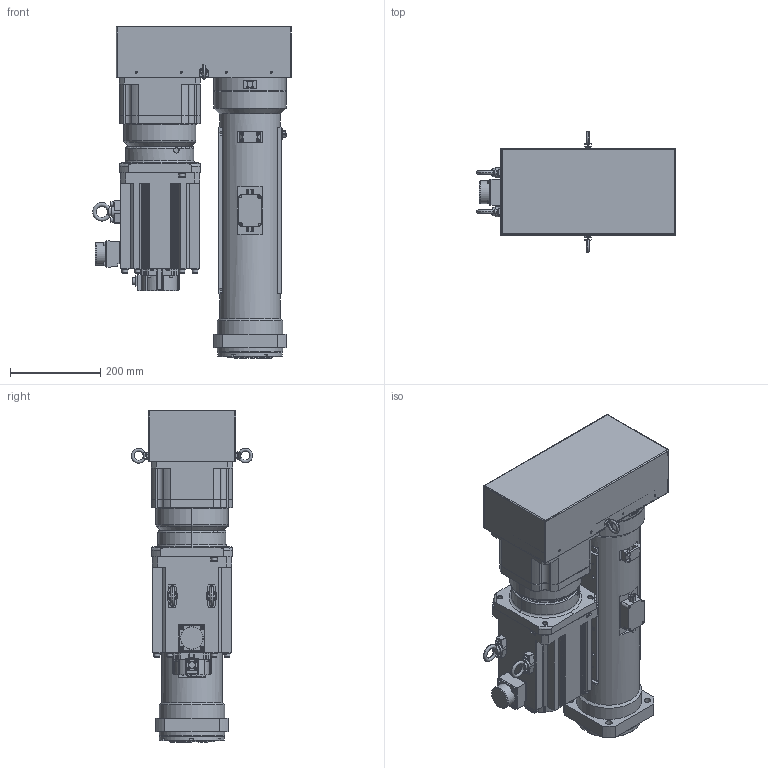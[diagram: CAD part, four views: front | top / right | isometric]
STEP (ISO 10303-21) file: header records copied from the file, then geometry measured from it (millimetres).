
FILE_DESCRIPTION( ('This file contains a STEP AP42 implementation' ,'as created by ZW3D STEP Interface translator.') ,'2;1' );
FILE_NAME( 'OACIS-DC-P090-P100-300-150 _v20.01.stp' ,'25 3 8.10 546', (''), ('ZWCAD Software Co.'), 'Version 1.0', 'ZW3D to STEP translator', '' );
FILE_SCHEMA(('AUTOMOTIVE_DESIGN { 1 0 10303 214 1 1 1 1 }'));
Length unit declared in the file: millimetre
Products named in the file (2): 0; OACIS-DC-P090-P100-300-150 _v20.01
Bounding box: 441.59 x 269.6 x 737.22 mm (x, y, z)
Volume: 18759654.5 mm3; surface area: 2326561.1 mm2
Topology: 24 solids, 58 shells, 2242 faces, 5677 edges, 3669 vertices
Faces by surface type: cylinder 928, plane 874, cone 302, torus 101, bspline 25, sphere 12
Full cylindrical faces by diameter (mm): 1.6 x8, 3.3 x94, 4.2 x18, 4.3 x30, 4.5 x8, 5 x4, 5.5 x6, 6.647 x2, 6.8 x69, 7 x8, 8 x36, 8.4 x8, 8.5 x1, 9 x10, 10 x6, 10.2 x8, 11 x4, 13 x8, 13.083 x1, 13.5 x4, 14 x23, 14.8 x1, 15 x8, 16 x10, 18 x6, 22.4 x2, 25.4 x3, 26 x2, 42 x2, 49.272 x1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
Entity records: 73956 total; most frequent: CARTESIAN_POINT 15912, DIRECTION 12169, ORIENTED_EDGE 11052, EDGE_CURVE 5571, AXIS2_PLACEMENT_3D 4623, VERTEX_POINT 3666, VECTOR 2923, LINE 2923
